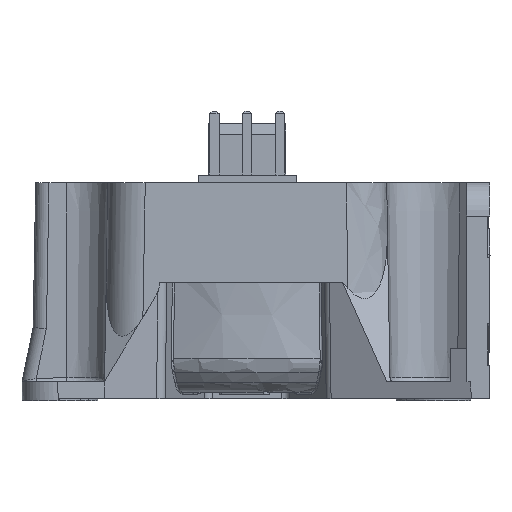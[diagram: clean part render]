
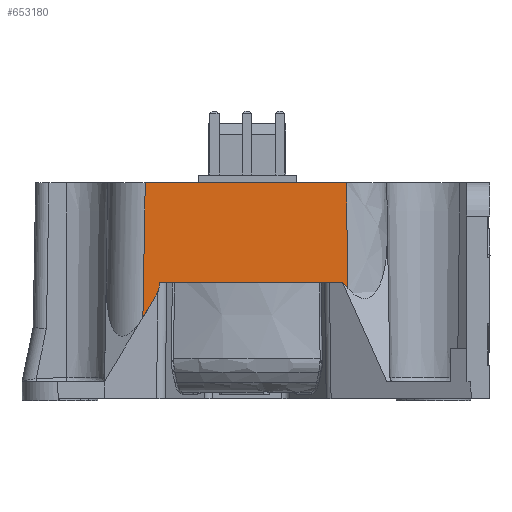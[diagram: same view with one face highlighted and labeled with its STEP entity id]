
A CAD part, left-side view. The second image highlights one B-rep face of the part: STEP entity #653180.
In plain terms, the highlighted planar face has unit normal (-1, 0, 0.018).
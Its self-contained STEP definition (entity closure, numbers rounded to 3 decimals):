
#38710=CARTESIAN_POINT('',(-26.309,-11.497,4.1));
#38720=VERTEX_POINT('',#38710);
#38750=CARTESIAN_POINT('',(-26.554,-23.837,
-9.931));
#38760=DIRECTION('',(-0.013,-0.66,
-0.751));
#38770=VECTOR('',#38760,1.);
#38780=LINE('',#38750,#38770);
#38790=CARTESIAN_POINT('',(-26.323,-12.156,
3.35));
#38800=VERTEX_POINT('',#38790);
#38810=EDGE_CURVE('',#38720,#38800,#38780,.T.);
#43650=CARTESIAN_POINT('',(-26.014,-11.87,
20.999));
#43660=CARTESIAN_POINT('',(-26.098,-11.946,
16.236));
#43670=CARTESIAN_POINT('',(-26.181,-12.023,
11.473));
#43680=CARTESIAN_POINT('',(-26.312,-12.146,
3.957));
#43690=CARTESIAN_POINT('',(-26.36,-12.192,
1.204));
#43700=CARTESIAN_POINT('',(-26.408,-12.237,
-1.548));
#43710=B_SPLINE_CURVE_WITH_KNOTS('',3,(#43650,#43660,#43670,#43680,
#43690,#43700),.UNSPECIFIED.,.F.,.F.,(4,2,4),(64.244,
78.537,86.797),.UNSPECIFIED.);
#43720=CARTESIAN_POINT('',(-26.1,-11.949,16.1));
#43730=VERTEX_POINT('',#43720);
#43740=EDGE_CURVE('',#43730,#38800,#43710,.T.);
#479140=CARTESIAN_POINT('',(-26.1,0.,16.1)
);
#479150=DIRECTION('',(0.,1.,0.));
#479160=VECTOR('',#479150,1.);
#479170=LINE('',#479140,#479160);
#479180=CARTESIAN_POINT('',(-26.1,12.31,16.1));
#479190=VERTEX_POINT('',#479180);
#479200=EDGE_CURVE('',#43730,#479190,#479170,.T.);
#652570=CARTESIAN_POINT('',(-26.361,11.801,
1.162));
#652580=VERTEX_POINT('',#652570);
#652610=CARTESIAN_POINT('',(-26.416,13.582,
-1.978));
#652620=DIRECTION('',(-0.015,0.493,
-0.87));
#652630=VECTOR('',#652620,1.);
#652640=LINE('',#652610,#652630);
#652650=CARTESIAN_POINT('',(-26.329,10.784,
2.955));
#652660=VERTEX_POINT('',#652650);
#652670=EDGE_CURVE('',#652660,#652580,#652640,.T.);
#652780=CARTESIAN_POINT('',(-26.1,-20.096,16.1));
#652790=DIRECTION('',(1.,0.,
-0.017));
#652800=DIRECTION('',(0.,-1.,-0.));
#652810=AXIS2_PLACEMENT_3D('',#652780,#652790,#652800);
#652820=PLANE('',#652810);
#652830=ORIENTED_EDGE('',*,*,#479200,.T.);
#652840=ORIENTED_EDGE('',*,*,#43740,.F.);
#652850=ORIENTED_EDGE('',*,*,#38810,.T.);
#652860=CARTESIAN_POINT('',(-26.309,-20.177,
4.1));
#652870=DIRECTION('',(0.,1.,0.));
#652880=VECTOR('',#652870,1.);
#652890=LINE('',#652860,#652880);
#652900=CARTESIAN_POINT('',(-26.309,10.531,4.1));
#652910=VERTEX_POINT('',#652900);
#652920=EDGE_CURVE('',#38720,#652910,#652890,.T.);
#652930=ORIENTED_EDGE('',*,*,#652920,.F.);
#652940=CARTESIAN_POINT('',(-25.714,10.411,
38.208));
#652950=DIRECTION('',(1.,0.,
-0.017));
#652960=DIRECTION('',(-0.017,0.013,
-1.));
#652970=AXIS2_PLACEMENT_3D('',#652940,#652950,#652960);
#652980=ELLIPSE('',#652970,35.327,1.2);
#652990=EDGE_CURVE('',#652910,#652660,#652980,.T.);
#653000=ORIENTED_EDGE('',*,*,#652990,.F.);
#653010=ORIENTED_EDGE('',*,*,#652670,.F.);
#653020=CARTESIAN_POINT('',(-26.415,13.691,
-1.959));
#653030=DIRECTION('',(0.015,-0.518,
0.855));
#653040=VECTOR('',#653030,1.);
#653050=LINE('',#653020,#653040);
#653060=CARTESIAN_POINT('',(-26.384,12.594,
-0.147));
#653070=VERTEX_POINT('',#653060);
#653080=EDGE_CURVE('',#653070,#652580,#653050,.T.);
#653090=ORIENTED_EDGE('',*,*,#653080,.T.);
#653100=CARTESIAN_POINT('',(-26.099,12.309,
16.179));
#653110=DIRECTION('',(0.017,-0.017,
1.));
#653120=VECTOR('',#653110,1.);
#653130=LINE('',#653100,#653120);
#653140=EDGE_CURVE('',#653070,#479190,#653130,.T.);
#653150=ORIENTED_EDGE('',*,*,#653140,.F.);
#653160=EDGE_LOOP('',(#653150,#653090,#653010,#653000,#652930,#652850,
#652840,#652830));
#653170=FACE_OUTER_BOUND('',#653160,.T.);
#653180=ADVANCED_FACE('',(#653170),#652820,.F.);
